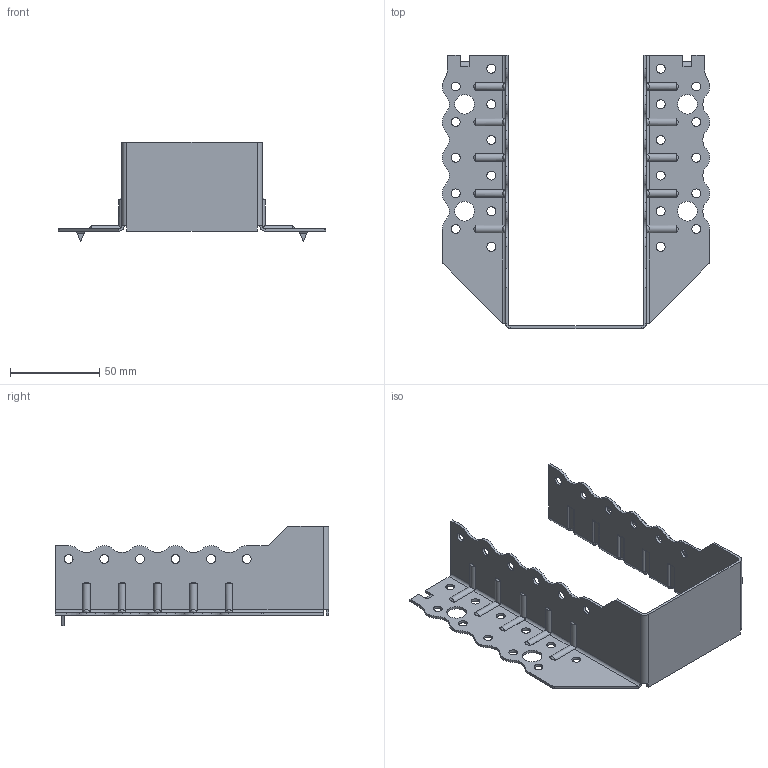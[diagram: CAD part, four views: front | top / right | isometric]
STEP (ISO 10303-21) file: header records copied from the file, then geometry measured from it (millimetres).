
FILE_DESCRIPTION (( 'STEP AP203' ), '1' );
FILE_NAME ('30619TOPK.STEP', '2021-04-08T14:43:23', ( '' ), ( '' ), 'SwSTEP 2.0', 'SolidWorks 2013', '' );
FILE_SCHEMA (( 'CONFIG_CONTROL_DESIGN' ));
Length unit declared in the file: millimetre
Products named in the file (1): 30619TOPK
Bounding box: 150 x 153.5 x 56 mm (x, y, z)
Volume: 35679.1 mm3; surface area: 50928.1 mm2
Topology: 1 solids, 1 shells, 426 faces, 1148 edges, 724 vertices
Faces by surface type: cylinder 267, plane 119, torus 20, bspline 20
Entity records: 15806 total; most frequent: CARTESIAN_POINT 4995, ORIENTED_EDGE 2296, DIRECTION 2214, EDGE_CURVE 1148, AXIS2_PLACEMENT_3D 807, VERTEX_POINT 724, VECTOR 600, LINE 600
